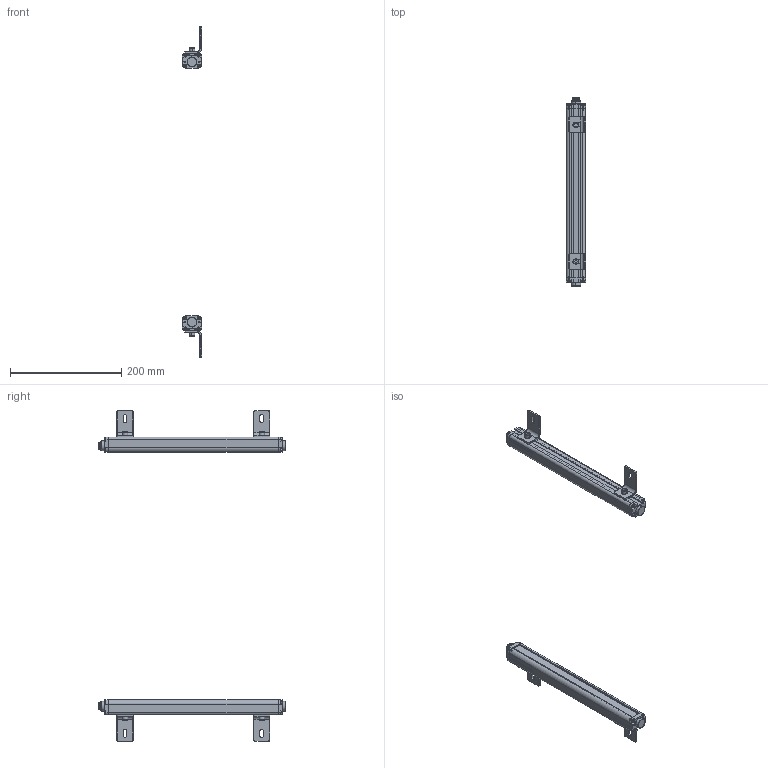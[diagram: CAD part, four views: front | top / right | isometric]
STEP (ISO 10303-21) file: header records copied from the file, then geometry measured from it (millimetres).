
FILE_DESCRIPTION (( 'STEP AP214' ), '1' );
FILE_NAME ('elg2810.STEP', '2018-03-08T10:33:30', ( '' ), ( '' ), 'SwSTEP 2.0', 'SolidWorks 2017', '' );
FILE_SCHEMA (( 'AUTOMOTIVE_DESIGN' ));
Length unit declared in the file: millimetre
Products named in the file (11): dlx-2810; bz1-2810; hkct1-2810; lgp-2810; elg2810; elgdg03-2810; elgw-2810; czzj-2810; glgdg-2810; hk-2810; lx-2810
Assembly tree (40 placements, depth 2):
  elg2810
    elgw-2810  x2
    bz1-2810  x2
    lgp-2810  x2
    glgdg-2810  x2
    elgdg03-2810  x2
    hkct1-2810  x2
    lx-2810  x16
    hk-2810  x4
    czzj-2810  x4
    dlx-2810  x4
Bounding box: 34.7 x 337.6 x 594 mm (x, y, z)
Volume: 264804.5 mm3; surface area: 268763.1 mm2
Topology: 40 solids, 40 shells, 2224 faces, 5816 edges, 3676 vertices
Faces by surface type: cylinder 1064, plane 688, bspline 472
Entity records: 144641 total; most frequent: CARTESIAN_POINT 129056, ORIENTED_EDGE 3284, DIRECTION 2954, EDGE_CURVE 1642, AXIS2_PLACEMENT_3D 1085, VERTEX_POINT 1054, LINE 784, VECTOR 784
